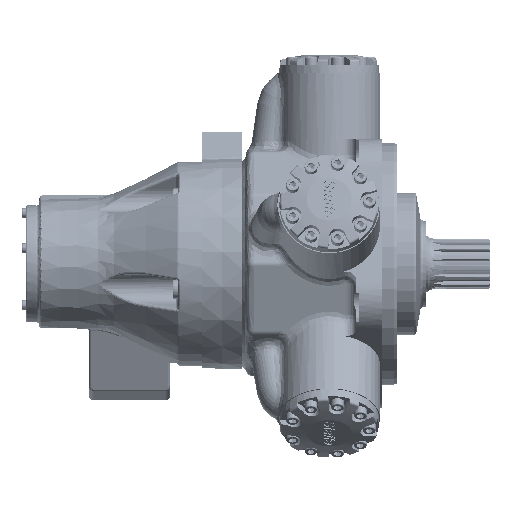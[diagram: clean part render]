
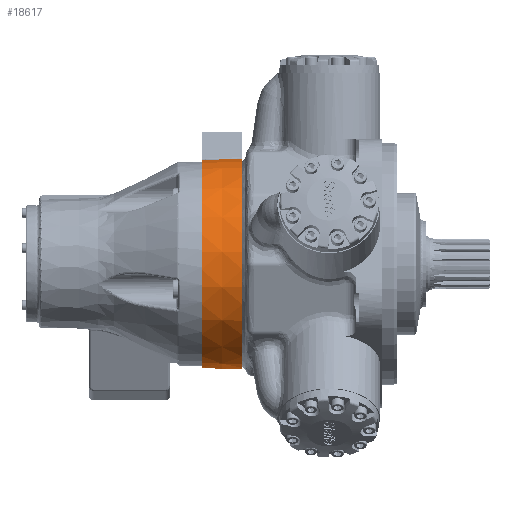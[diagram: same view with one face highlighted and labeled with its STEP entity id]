
A CAD part, front view. The second image highlights one B-rep face of the part: STEP entity #18617.
In plain terms, the highlighted conical face has half-angle 1 degrees and reference radius 130.68 mm.
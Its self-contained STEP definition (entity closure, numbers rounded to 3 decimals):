
#15852=CARTESIAN_POINT('',(-159.067,84.887,98.769));
#15853=VERTEX_POINT('',#15852);
#15872=CARTESIAN_POINT('',(-159.067,-10.62,129.802));
#15873=VERTEX_POINT('',#15872);
#15874=CARTESIAN_POINT('',(-159.067,0.,0.));
#15875=DIRECTION('',(1.,0.,0.));
#15876=DIRECTION('',(0.,0.951,-0.309));
#15877=AXIS2_PLACEMENT_3D('',#15874,#15875,#15876);
#15878=CIRCLE('',#15877,130.235);
#15879=EDGE_CURVE('',#15873,#15853,#15878,.T.);
#16004=CARTESIAN_POINT('',(-108.267,85.191,99.677));
#16005=VERTEX_POINT('',#16004);
#16096=CARTESIAN_POINT('',(-108.267,-10.332,130.714));
#16097=VERTEX_POINT('',#16096);
#16114=CARTESIAN_POINT('',(-108.267,0.,0.));
#16115=DIRECTION('',(-1.,0.,0.));
#16116=DIRECTION('',(0.,0.951,-0.309));
#16117=AXIS2_PLACEMENT_3D('',#16114,#16115,#16116);
#16118=CIRCLE('',#16117,131.122);
#16119=EDGE_CURVE('',#16005,#16097,#16118,.T.);
#18588=CARTESIAN_POINT('',(-159.067,-10.62,129.802));
#18589=CARTESIAN_POINT('',(-142.134,-10.524,130.106));
#18590=CARTESIAN_POINT('',(-125.201,-10.428,130.41));
#18591=CARTESIAN_POINT('',(-108.267,-10.332,130.714));
#18592=B_SPLINE_CURVE_WITH_KNOTS('',3,(#18588,#18589,#18590,#18591),.UNSPECIFIED.,.F.,.U.,(4,4),(-5.764,-0.683),.UNSPECIFIED.);
#18593=EDGE_CURVE('',#15873,#16097,#18592,.T.);
#18600=CARTESIAN_POINT('',(-133.57,0.,0.));
#18601=DIRECTION('',(1.0,0.,0.));
#18602=DIRECTION('',(0.,0.951,-0.309));
#18603=AXIS2_PLACEMENT_3D('',#18600,#18601,#18602);
#18604=CONICAL_SURFACE('',#18603,130.68,1.);
#18605=ORIENTED_EDGE('',*,*,#15879,.T.);
#18606=CARTESIAN_POINT('',(-108.267,85.191,99.677));
#18607=CARTESIAN_POINT('',(-125.201,85.09,99.375));
#18608=CARTESIAN_POINT('',(-142.134,84.988,99.072));
#18609=CARTESIAN_POINT('',(-159.067,84.887,98.769));
#18610=B_SPLINE_CURVE_WITH_KNOTS('',3,(#18606,#18607,#18608,#18609),.UNSPECIFIED.,.F.,.U.,(4,4),(-5.739,-0.658),.UNSPECIFIED.);
#18611=EDGE_CURVE('',#16005,#15853,#18610,.T.);
#18612=ORIENTED_EDGE('',*,*,#18611,.F.);
#18613=ORIENTED_EDGE('',*,*,#16119,.T.);
#18614=ORIENTED_EDGE('',*,*,#18593,.F.);
#18615=EDGE_LOOP('',(#18605,#18612,#18613,#18614));
#18616=FACE_OUTER_BOUND('',#18615,.T.);
#18617=ADVANCED_FACE('',(#18616),#18604,.T.);
